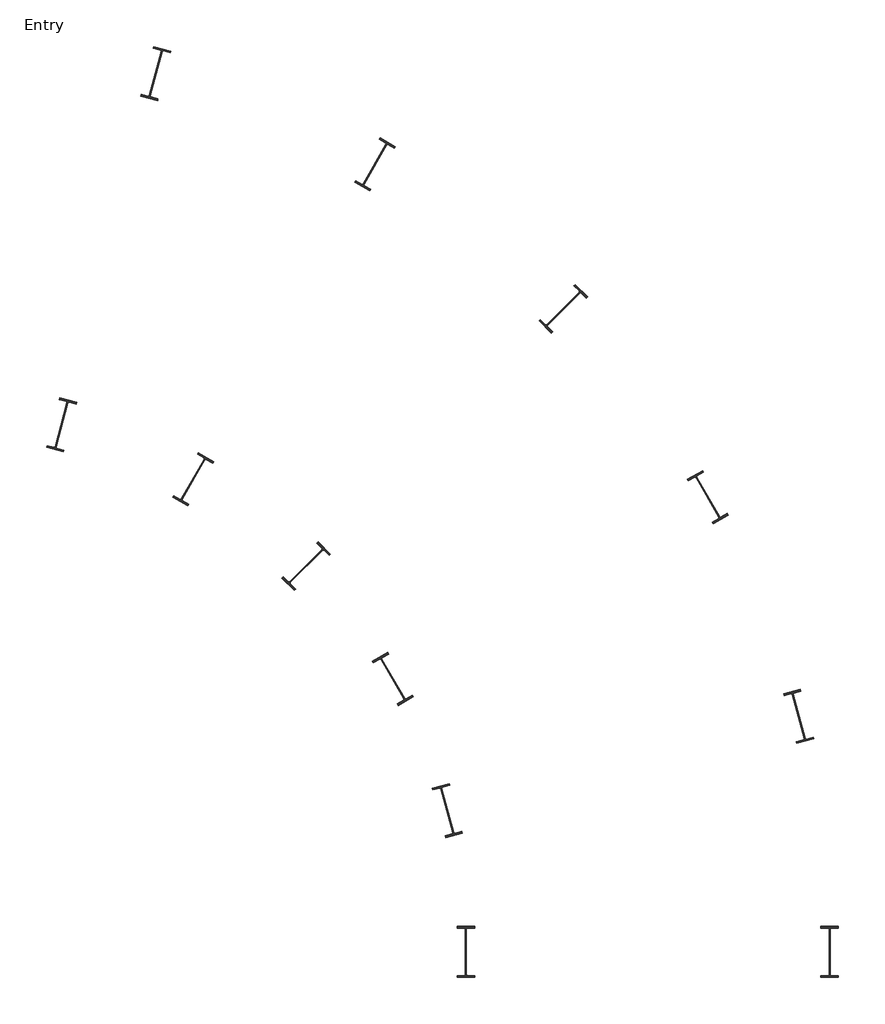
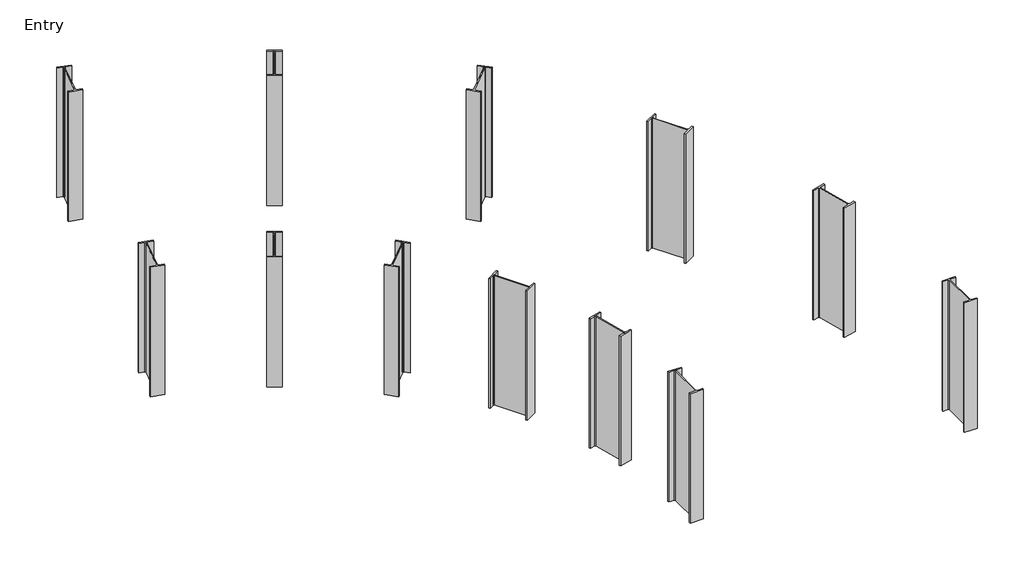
# One storey: 12 columns.
"""IFC4 building model written with IfcOpenShell, lengths in millimetres."""

from ifc_helpers import new_model, si_unit, origin, place, context, project, spatial, transform, mapped, element, save
from components import w840x251_55315ef0

model = new_model("IFC4")

# Units and contexts
model_context = context("Model", 3, world=origin())
ifc_project = project(units=[si_unit("LENGTHUNIT", "METRE", prefix="MILLI")], contexts=[model_context])

# Site, building, storey
site = spatial("IfcSite", under=ifc_project)
building = spatial("IfcBuilding", under=site)
storey = spatial("IfcBuildingStorey", under=building, Name="Entry", Elevation=0.0)

# Columns
placement = place(None, origin())
w840x251_shape = w840x251_55315ef0(model_context)
element("IfcColumn", 1, ObjectType="M_W Shapes-Column : W840X251", at=placement, inside=storey, context=model_context, shape_type="MappedRepresentation", body=[
    mapped(w840x251_shape, transform((-4797.0467956, -11916.3595363, 0.0), x_axis=(1.0, 0.0, 0.0), y_axis=(0.0, 1.0, 0.0), z_axis=(0.0, 0.0, 1.0))),
])
element("IfcColumn", 2, ObjectType="M_W Shapes-Column : W840X251", at=placement, inside=storey, context=model_context, shape_type="MappedRepresentation", body=[
    mapped(w840x251_shape, transform((1298.9532044, -11916.3595363, 0.0), x_axis=(1.0, 0.0, 0.0), y_axis=(0.0, 1.0, 0.0), z_axis=(0.0, 0.0, 1.0))),
])
element("IfcColumn", 3, ObjectType="M_W Shapes-Column : W840X251", at=placement, inside=storey, context=model_context, shape_type="MappedRepresentation", body=[
    mapped(w840x251_shape, transform((-5108.62104, -9549.7181879, 0.0), x_axis=(0.9659258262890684, 0.2588190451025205, 0.0), y_axis=(-0.2588190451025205, 0.9659258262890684, 0.0), z_axis=(0.0, 0.0, 1.0))),
])
element("IfcColumn", 4, ObjectType="M_W Shapes-Column : W840X251", at=placement, inside=storey, context=model_context, shape_type="MappedRepresentation", body=[
    mapped(w840x251_shape, transform((779.6627971, -7971.957289, 0.0), x_axis=(0.9659258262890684, 0.2588190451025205, 0.0), y_axis=(-0.2588190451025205, 0.9659258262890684, 0.0), z_axis=(0.0, 0.0, 1.0))),
])
element("IfcColumn", 5, ObjectType="M_W Shapes-Column : W840X251", at=placement, inside=storey, context=model_context, shape_type="MappedRepresentation", body=[
    mapped(w840x251_shape, transform((-6022.1105033, -7344.3595363, 0.0), x_axis=(0.866025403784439, 0.49999999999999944, 0.0), y_axis=(-0.49999999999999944, 0.866025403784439, 0.0), z_axis=(0.0, 0.0, 1.0))),
])
element("IfcColumn", 6, ObjectType="M_W Shapes-Column : W840X251", at=placement, inside=storey, context=model_context, shape_type="MappedRepresentation", body=[
    mapped(w840x251_shape, transform((-742.8196419, -4296.3595363, 0.0), x_axis=(0.866025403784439, 0.49999999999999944, 0.0), y_axis=(-0.49999999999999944, 0.866025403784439, 0.0), z_axis=(0.0, 0.0, 1.0))),
])
element("IfcColumn", 7, ObjectType="M_W Shapes-Column : W840X251", at=placement, inside=storey, context=model_context, shape_type="MappedRepresentation", body=[
    mapped(w840x251_shape, transform((-7475.2623884, -5450.5751292, 0.0), x_axis=(0.7071067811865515, -0.7071067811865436, 0.0), y_axis=(0.7071067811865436, 0.7071067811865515, 0.0), z_axis=(0.0, 0.0, 1.0))),
])
element("IfcColumn", 8, ObjectType="M_W Shapes-Column : W840X251", at=placement, inside=storey, context=model_context, shape_type="MappedRepresentation", body=[
    mapped(w840x251_shape, transform((-3164.7394503, -1140.0521911, 0.0), x_axis=(0.7071067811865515, -0.7071067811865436, 0.0), y_axis=(0.7071067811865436, 0.7071067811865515, 0.0), z_axis=(0.0, 0.0, 1.0))),
])
element("IfcColumn", 9, ObjectType="M_W Shapes-Column : W840X251", at=placement, inside=storey, context=model_context, shape_type="MappedRepresentation", body=[
    mapped(w840x251_shape, transform((-9369.0467956, -3997.4232441, 0.0), x_axis=(0.8660254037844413, -0.49999999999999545, 0.0), y_axis=(0.49999999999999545, 0.8660254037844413, 0.0), z_axis=(0.0, 0.0, 1.0))),
])
element("IfcColumn", 10, ObjectType="M_W Shapes-Column : W840X251", at=placement, inside=storey, context=model_context, shape_type="MappedRepresentation", body=[
    mapped(w840x251_shape, transform((-6321.0467956, 1281.8676173, 0.0), x_axis=(0.8660254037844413, -0.49999999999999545, 0.0), y_axis=(0.49999999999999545, 0.8660254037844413, 0.0), z_axis=(0.0, 0.0, 1.0))),
])
element("IfcColumn", 11, ObjectType="M_W Shapes-Column : W840X251", at=placement, inside=storey, context=model_context, shape_type="MappedRepresentation", body=[
    mapped(w840x251_shape, transform((-11574.4054471, -3083.9337808, 0.0), x_axis=(0.9659258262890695, -0.258819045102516, 0.0), y_axis=(0.258819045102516, 0.9659258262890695, 0.0), z_axis=(0.0, 0.0, 1.0))),
])
element("IfcColumn", 12, ObjectType="M_W Shapes-Column : W840X251", at=placement, inside=storey, context=model_context, shape_type="MappedRepresentation", body=[
    mapped(w840x251_shape, transform((-9996.6445482, 2804.3500563, 0.0), x_axis=(0.9659258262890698, -0.25881904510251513, 0.0), y_axis=(0.25881904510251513, 0.9659258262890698, 0.0), z_axis=(0.0, 0.0, 1.0))),
])

save(model, "model.ifc")
